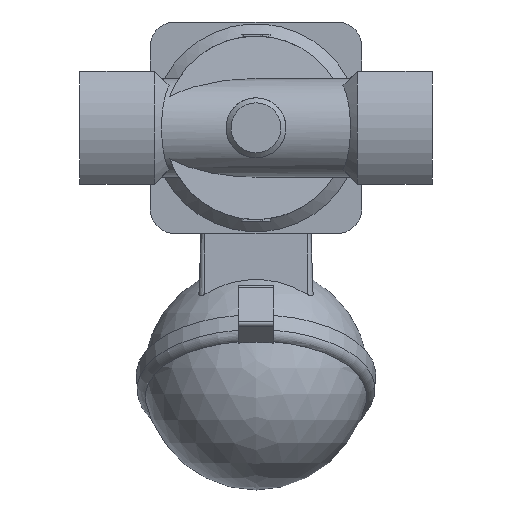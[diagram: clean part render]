
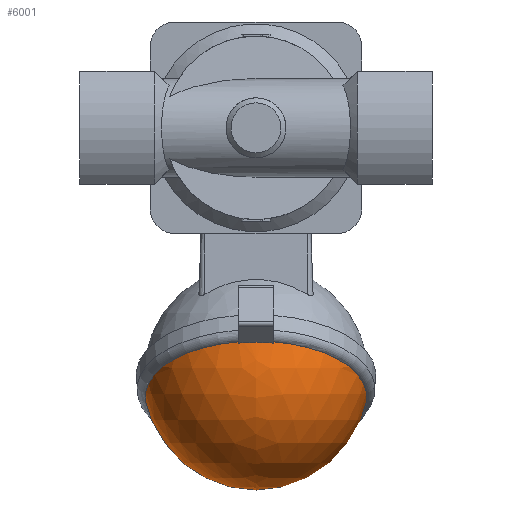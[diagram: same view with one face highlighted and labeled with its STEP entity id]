
A CAD part, front view. The second image highlights one B-rep face of the part: STEP entity #6001.
In plain terms, the highlighted spherical face has radius 32 mm.
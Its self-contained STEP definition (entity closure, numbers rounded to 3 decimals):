
#20=SPHERICAL_SURFACE('',#7609,32.);
#482=CIRCLE('',#7610,31.368);
#483=CIRCLE('',#7611,31.607);
#484=CIRCLE('',#7612,31.291);
#485=CIRCLE('',#7613,31.607);
#486=CIRCLE('',#7614,31.368);
#487=CIRCLE('',#7615,30.708);
#488=CIRCLE('',#7616,30.984);
#489=CIRCLE('',#7617,30.708);
#2652=ORIENTED_EDGE('',*,*,#3858,.F.);
#2653=ORIENTED_EDGE('',*,*,#3859,.T.);
#2654=ORIENTED_EDGE('',*,*,#3860,.T.);
#2655=ORIENTED_EDGE('',*,*,#3861,.F.);
#2656=ORIENTED_EDGE('',*,*,#3862,.F.);
#2657=ORIENTED_EDGE('',*,*,#3863,.F.);
#2658=ORIENTED_EDGE('',*,*,#3864,.T.);
#2659=ORIENTED_EDGE('',*,*,#3865,.T.);
#3858=EDGE_CURVE('',#4555,#4556,#482,.F.);
#3859=EDGE_CURVE('',#4555,#4557,#483,.F.);
#3860=EDGE_CURVE('',#4557,#4558,#484,.F.);
#3861=EDGE_CURVE('',#4559,#4558,#485,.F.);
#3862=EDGE_CURVE('',#4560,#4559,#486,.F.);
#3863=EDGE_CURVE('',#4561,#4560,#487,.F.);
#3864=EDGE_CURVE('',#4561,#4562,#488,.F.);
#3865=EDGE_CURVE('',#4562,#4556,#489,.F.);
#4555=VERTEX_POINT('',#11174);
#4556=VERTEX_POINT('',#11175);
#4557=VERTEX_POINT('',#11177);
#4558=VERTEX_POINT('',#11179);
#4559=VERTEX_POINT('',#11181);
#4560=VERTEX_POINT('',#11183);
#4561=VERTEX_POINT('',#11185);
#4562=VERTEX_POINT('',#11187);
#5053=EDGE_LOOP('',(#2652,#2653,#2654,#2655,#2656,#2657,#2658,#2659));
#5505=FACE_BOUND('',#5053,.T.);
#6001=ADVANCED_FACE('',(#5505),#20,.T.);
#7609=AXIS2_PLACEMENT_3D('',#11172,#9022,#9023);
#7610=AXIS2_PLACEMENT_3D('',#11173,#9024,#9025);
#7611=AXIS2_PLACEMENT_3D('',#11176,#9026,#9027);
#7612=AXIS2_PLACEMENT_3D('',#11178,#9028,#9029);
#7613=AXIS2_PLACEMENT_3D('',#11180,#9030,#9031);
#7614=AXIS2_PLACEMENT_3D('',#11182,#9032,#9033);
#7615=AXIS2_PLACEMENT_3D('',#11184,#9034,#9035);
#7616=AXIS2_PLACEMENT_3D('',#11186,#9036,#9037);
#7617=AXIS2_PLACEMENT_3D('',#11188,#9038,#9039);
#9022=DIRECTION('',(1.,0.,0.));
#9023=DIRECTION('',(0.,-1.,0.));
#9024=DIRECTION('',(-0.866,-0.5,0.));
#9025=DIRECTION('',(0.5,-0.866,0.));
#9026=DIRECTION('',(0.,0.,1.));
#9027=DIRECTION('',(1.,0.,0.));
#9028=DIRECTION('',(0.866,0.5,0.));
#9029=DIRECTION('',(-0.5,0.866,0.));
#9030=DIRECTION('',(0.,0.,1.));
#9031=DIRECTION('',(1.,0.,0.));
#9032=DIRECTION('',(-0.866,-0.5,0.));
#9033=DIRECTION('',(0.5,-0.866,0.));
#9034=DIRECTION('',(0.,0.,1.));
#9035=DIRECTION('',(1.,0.,0.));
#9036=DIRECTION('',(0.866,0.5,0.));
#9037=DIRECTION('',(-0.5,0.866,0.));
#9038=DIRECTION('',(0.,0.,1.));
#9039=DIRECTION('',(1.,0.,0.));
#11172=CARTESIAN_POINT('',(-70.7,0.,0.));
#11173=CARTESIAN_POINT('',(-76.183,-3.165,0.));
#11174=CARTESIAN_POINT('',(-60.699,-29.983,-5.));
#11175=CARTESIAN_POINT('',(-91.207,22.858,-9.));
#11176=CARTESIAN_POINT('',(-70.7,0.,-5.));
#11177=CARTESIAN_POINT('',(-61.058,-30.1,-5.));
#11178=CARTESIAN_POINT('',(-76.502,-3.35,0.));
#11179=CARTESIAN_POINT('',(-61.058,-30.1,5.));
#11180=CARTESIAN_POINT('',(-70.7,0.,5.));
#11181=CARTESIAN_POINT('',(-60.699,-29.983,5.));
#11182=CARTESIAN_POINT('',(-76.183,-3.165,0.));
#11183=CARTESIAN_POINT('',(-91.207,22.858,9.));
#11184=CARTESIAN_POINT('',(-70.7,0.,9.));
#11185=CARTESIAN_POINT('',(-92.452,21.676,9.));
#11186=CARTESIAN_POINT('',(-77.628,-4.,0.));
#11187=CARTESIAN_POINT('',(-92.452,21.676,-9.));
#11188=CARTESIAN_POINT('',(-70.7,0.,-9.));
